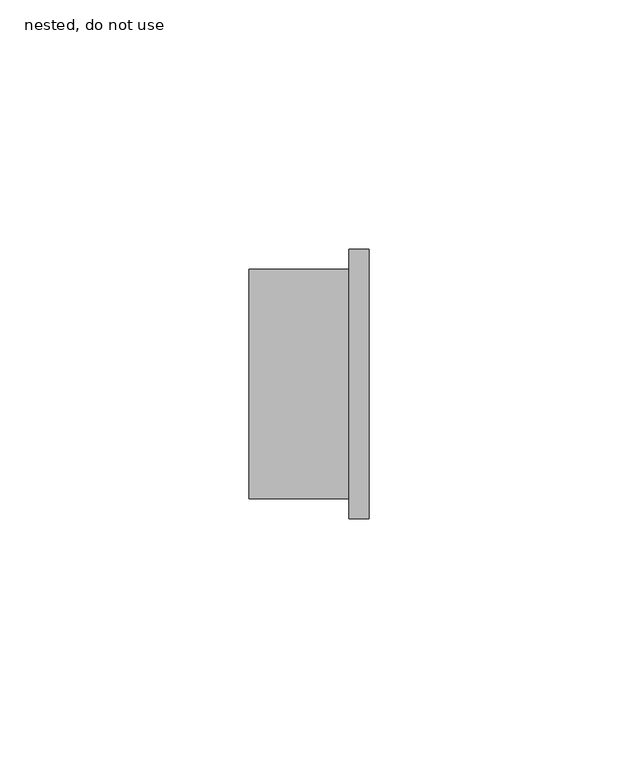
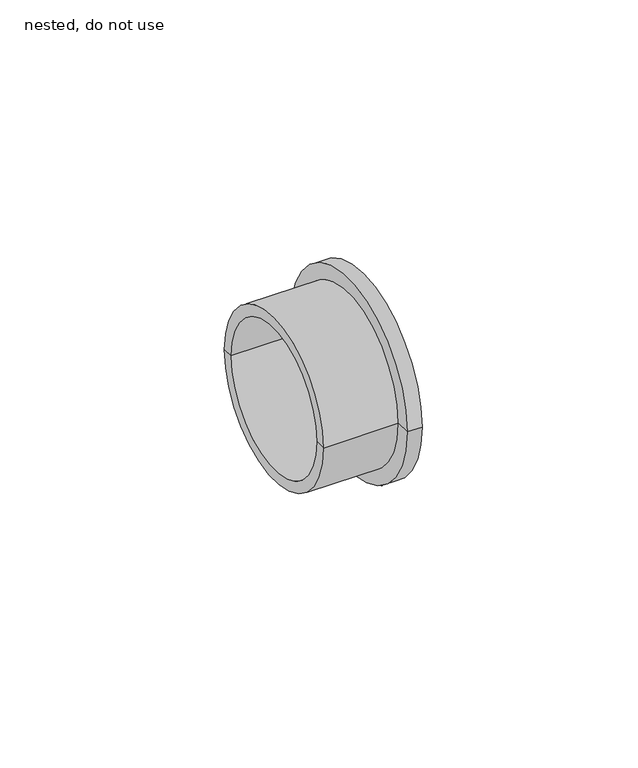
"""IFC4 building model written with IfcOpenShell, lengths in millimetres: pipe fitting geometry, NLRS_52_PIF_UN_HDPE rubber sleeve -SH_Akatherm : nested, do not use."""

from ifc_helpers import new_model, si_unit, frame, origin, place, context, project, spatial, polyline, circle_curve, source, transform, mapped, element, save
from ifc_brep_helpers import plane_surface, cylinder_surface, revolved_surface, advanced_brep


def nested_do_not_use_0e8bf35e(model_context):
    return source(origin(), model_context, "Body", "AdvancedBrep", [
        advanced_brep(
        [(8.0, 23.0, 0.0), (8.0, 27.0, 0.0), (8.0, -27.0, 0.0), (8.0, -23.0, 0.0), (-12.0, 23.0, 0.0), (-12.0, -23.0, 0.0), (-12.0, 20.0, 0.0), (-12.0, -20.0, 0.0), (12.0, 20.0, 0.0), (12.0, -20.0, 0.0), (12.0, 27.0, 0.0), (12.0, -27.0, 0.0)],
        [
            (0, 1),
            (1, 2, circle_curve(frame((8.0, 0.0, 0.0), z_axis=(-1.0, 0.0, 0.0), x_axis=(0.0, -1.0, 0.0)), 27.0)),
            (2, 3),
            (3, 0, circle_curve(frame((8.0, 0.0, 0.0), z_axis=(1.0, 0.0, 0.0), x_axis=(0.0, -1.0, 0.0)), 23.0)),
            (2, 1, circle_curve(frame((8.0, 0.0, 0.0), z_axis=(-1.0, 0.0, 0.0), x_axis=(0.0, -1.0, 0.0)), 27.0)),
            (0, 3, circle_curve(frame((8.0, 0.0, 0.0), z_axis=(1.0, 0.0, 0.0), x_axis=(0.0, -1.0, 0.0)), 23.0)),
            (4, 0),
            (3, 5),
            (5, 4, circle_curve(frame((-12.0, 0.0, 0.0), z_axis=(1.0, 0.0, 0.0), x_axis=(0.0, -1.0, 0.0)), 23.0)),
            (4, 5, circle_curve(frame((-12.0, 0.0, 0.0), z_axis=(1.0, 0.0, 0.0), x_axis=(0.0, -1.0, 0.0)), 23.0)),
            (6, 4),
            (5, 7),
            (7, 6, circle_curve(frame((-12.0, 0.0, 0.0), z_axis=(1.0, 0.0, 0.0), x_axis=(0.0, -1.0, 0.0)), 20.0)),
            (6, 7, circle_curve(frame((-12.0, 0.0, 0.0), z_axis=(1.0, 0.0, 0.0), x_axis=(0.0, -1.0, 0.0)), 20.0)),
            (8, 6),
            (7, 9),
            (9, 8, circle_curve(frame((12.0, 0.0, 0.0), z_axis=(1.0, 0.0, 0.0), x_axis=(0.0, -1.0, 0.0)), 20.0)),
            (8, 9, circle_curve(frame((12.0, 0.0, 0.0), z_axis=(1.0, 0.0, 0.0), x_axis=(0.0, -1.0, 0.0)), 20.0)),
            (10, 8),
            (9, 11),
            (11, 10, circle_curve(frame((12.0, 0.0, 0.0), z_axis=(1.0, 0.0, 0.0), x_axis=(0.0, -1.0, 0.0)), 27.0)),
            (10, 11, circle_curve(frame((12.0, 0.0, 0.0), z_axis=(1.0, 0.0, 0.0), x_axis=(0.0, -1.0, 0.0)), 27.0)),
            (1, 10),
            (11, 2),
        ],
        [
            plane_surface(frame((8.0, 0.0, 0.0), z_axis=(-1.0, 0.0, 0.0), x_axis=(0.0, -1.0, 0.0))),
            cylinder_surface(frame((-37.0, 0.0, 0.0), z_axis=(-1.0, 0.0, 0.0), x_axis=(0.0, -1.0, 0.0)), 23.0),
            plane_surface(frame((-12.0, 0.0, 0.0), z_axis=(-1.0, 0.0, 0.0), x_axis=(0.0, -1.0, 0.0))),
            revolved_surface(polyline([(-12.0, -20.0, 0.0), (12.0, -20.0, 0.0)]), (-37.0, 0.0, 0.0), (-1.0, 0.0, 0.0)),
            plane_surface(frame((12.0, 0.0, 0.0), z_axis=(1.0, 0.0, 0.0), x_axis=(0.0, -1.0, 0.0))),
            cylinder_surface(frame((-37.0, 0.0, 0.0), z_axis=(-1.0, 0.0, 0.0), x_axis=(0.0, -1.0, 0.0)), 27.0),
        ],
        [
            (0, [[1, 2, 3, 4]]),
            (0, [[-3, 5, -1, 6]]),
            (1, [[7, -4, 8, 9]]),
            (1, [[-8, -6, -7, 10]]),
            (2, [[11, -9, 12, 13]]),
            (2, [[-12, -10, -11, 14]]),
            (3, [[15, -13, 16, 17]]),
            (3, [[-16, -14, -15, 18]]),
            (4, [[19, -17, 20, 21]]),
            (4, [[-20, -18, -19, 22]]),
            (5, [[23, -21, 24, -2]]),
            (5, [[-24, -22, -23, -5]]),
        ],
    ),
    ])


if __name__ == "__main__":
    model = new_model("IFC4")
    model_context = context("Model", 3, world=origin())
    ifc_project = project(units=[si_unit("LENGTHUNIT", "METRE", prefix="MILLI")], contexts=[model_context])
    site = spatial("IfcSite", under=ifc_project)
    building = spatial("IfcBuilding", under=site)
    placement = place(None, origin())
    nested_do_not_use_shape = nested_do_not_use_0e8bf35e(model_context)
    element("IfcPipeFitting", 1, ObjectType="NLRS_52_PIF_UN_HDPE rubber sleeve -SH_Akatherm : nested, do not use", at=placement, inside=building, context=model_context, shape_type="MappedRepresentation", body=[
        mapped(nested_do_not_use_shape, transform((0.0, 0.0, 0.0), x_axis=(1.0, 0.0, 0.0), y_axis=(0.0, 1.0, 0.0), z_axis=(0.0, 0.0, 1.0))),
    ])
    save(model, "model.ifc")
